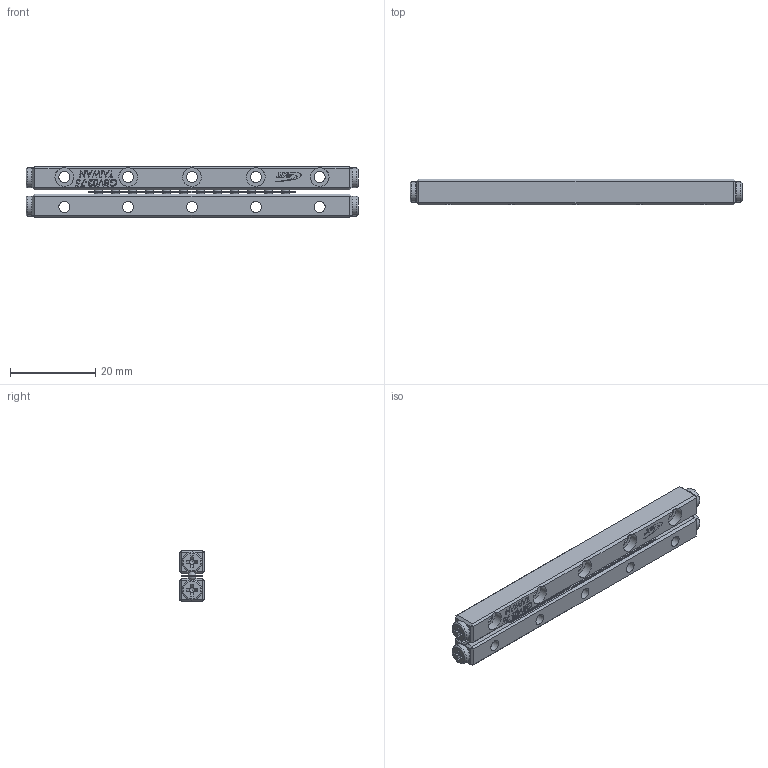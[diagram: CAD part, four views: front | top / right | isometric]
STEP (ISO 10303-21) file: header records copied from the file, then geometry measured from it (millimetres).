
FILE_DESCRIPTION (( 'STEP AP203' ), '1' );
FILE_NAME ('GBV02-75.STEP', '2023-09-15T06:35:04', ( '' ), ( '' ), 'SwSTEP 2.0', 'SolidWorks 2019', '' );
FILE_SCHEMA (( 'CONFIG_CONTROL_DESIGN' ));
Length unit declared in the file: millimetre
Products named in the file (3): GBV02-75; GBV02-75-模糊化保持器組; GBV02-75-模糊化軌道
Assembly tree (3 placements, depth 2):
  GBV02-75
    GBV02-75-模糊化軌道  x2
    GBV02-75-模糊化保持器組
Bounding box: 78 x 6 x 12 mm (x, y, z)
Volume: 4326.3 mm3; surface area: 4916.4 mm2
Topology: 3 solids, 3 shells, 682 faces, 1700 edges, 1096 vertices
Faces by surface type: plane 478, bspline 110, cone 36, cylinder 26, sphere 24, torus 8
Full cylindrical faces by diameter (mm): 2.6 x10, 4.4 x10, 4.7 x4
Entity records: 13308 total; most frequent: CARTESIAN_POINT 5052, ORIENTED_EDGE 1690, DIRECTION 1416, EDGE_CURVE 845, LINE 598, VECTOR 598, VERTEX_POINT 557, EDGE_LOOP 434
